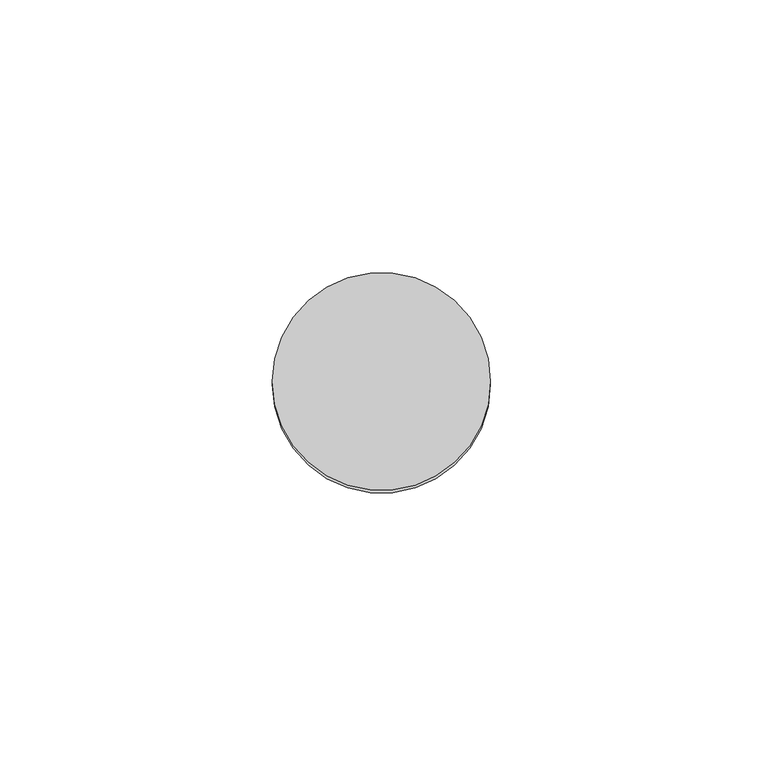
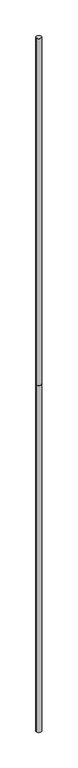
"""IFC4 building model written with IfcOpenShell, lengths in millimetres: proxy geometry, КНС_МачтаМолниеприемная_DKC : NL6000CU_Медь_6м."""

from ifc_helpers import new_model, si_unit, point, frame, origin, origin_with_axes, origin_2d, place, context, project, spatial, circle_curve, trimmed, segment, composite_curve, outline, extrude, source, transform, mapped, element, save


def security_devices_a4980a0c(model_context):
    return source(origin(), model_context, "Body", "SweptSolid", [
        extrude(outline(composite_curve([segment(trimmed(circle_curve(origin_2d(), 20.0), [point((-20.0, 0.0))], [point((20.0, 0.0))], False, "CARTESIAN"), True, "CONTINUOUS"), segment(trimmed(circle_curve(origin_2d(), 20.0), [point((20.0, 0.0))], [point((-20.0, 0.0))], False, "CARTESIAN"), True, "CONTINUOUS")], self_intersect=False)), frame((0.0, 0.0, 3000.0), z_axis=(0.0, 0.0, 1.0), x_axis=(1.0, 0.0, 0.0)), (0.0, 0.0, 1.0), 3000.0),
        extrude(outline(composite_curve([segment(trimmed(circle_curve(origin_2d(), 20.0), [point((-20.0, 0.0))], [point((20.0, 0.0))], False, "CARTESIAN"), True, "CONTINUOUS"), segment(trimmed(circle_curve(origin_2d(), 20.0), [point((20.0, 0.0))], [point((-20.0, 0.0))], False, "CARTESIAN"), True, "CONTINUOUS")], self_intersect=False)), origin_with_axes(), (0.0, 0.0, 1.0), 3000.0),
    ])


if __name__ == "__main__":
    model = new_model("IFC4")
    model_context = context("Model", 3, world=origin())
    ifc_project = project(units=[si_unit("LENGTHUNIT", "METRE", prefix="MILLI")], contexts=[model_context])
    site = spatial("IfcSite", under=ifc_project)
    building = spatial("IfcBuilding", under=site)
    placement = place(None, origin())
    security_devices_shape = security_devices_a4980a0c(model_context)
    element("IfcBuildingElementProxy", 1, Name="КНС_МачтаМолниеприемная_DKC : NL6000CU_Медь_6м", ObjectType="КНС_МачтаМолниеприемная_DKC : NL6000CU_Медь_6м", at=placement, inside=building, context=model_context, shape_type="MappedRepresentation", body=[
        mapped(security_devices_shape, transform((0.0, 0.0, 0.0), x_axis=(1.0, 0.0, 0.0), y_axis=(0.0, 1.0, 0.0), z_axis=(0.0, 0.0, 1.0))),
    ])
    save(model, "model.ifc")
